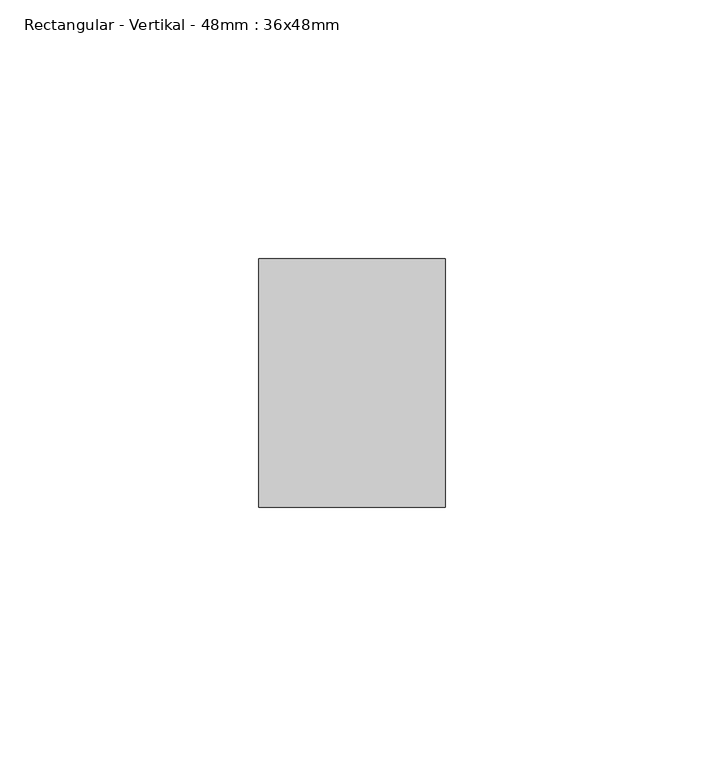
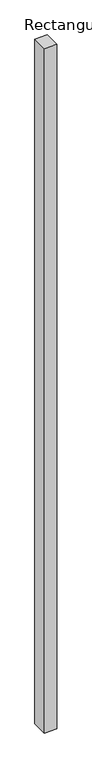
"""IFC4 building model written with IfcOpenShell, lengths in millimetres: proxy geometry, Rectangular - Vertikal - 48mm : 36x48mm."""

from ifc_helpers import new_model, si_unit, frame, origin, place, context, project, spatial, polyline, outline, extrude, source, transform, mapped, element, save


def rectangular_vertikal_48mm_36x48mm_80132ba2(model_context):
    return source(origin(), model_context, "Body", "SweptSolid", [
        extrude(outline(polyline([(0.0, 20.0), (36.0, 20.0), (36.0, -28.0), (0.0, -28.0), (0.0, 20.0)])), frame((0.0, 0.0, -1050.0025175), z_axis=(0.0, 0.0, 1.0), x_axis=(1.0, 0.0, 0.0)), (0.0, 0.0, 1.0), 2100.0),
    ])


if __name__ == "__main__":
    model = new_model("IFC4")
    model_context = context("Model", 3, world=origin())
    ifc_project = project(units=[si_unit("LENGTHUNIT", "METRE", prefix="MILLI")], contexts=[model_context])
    site = spatial("IfcSite", under=ifc_project)
    building = spatial("IfcBuilding", under=site)
    placement = place(None, origin())
    rectangular_vertikal_48mm_36x48mm_shape = rectangular_vertikal_48mm_36x48mm_80132ba2(model_context)
    element("IfcBuildingElementProxy", 1, Name="Rectangular - Vertikal - 48mm : 36x48mm", ObjectType="Rectangular - Vertikal - 48mm : 36x48mm", at=placement, inside=building, context=model_context, shape_type="MappedRepresentation", body=[
        mapped(rectangular_vertikal_48mm_36x48mm_shape, transform((0.0, 0.0, 0.0), x_axis=(1.0, 0.0, 0.0), y_axis=(0.0, 1.0, 0.0), z_axis=(0.0, 0.0, 1.0))),
    ])
    save(model, "model.ifc")
